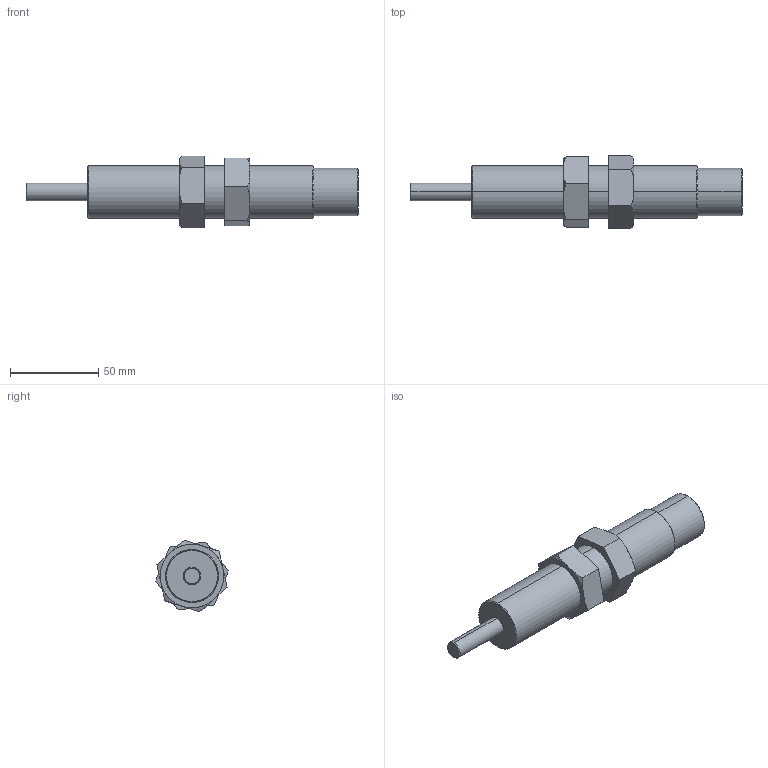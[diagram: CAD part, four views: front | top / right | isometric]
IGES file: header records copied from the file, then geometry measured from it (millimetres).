
Start section: SolidWorks IGES file using analytic representation for surfaces
Global section: file name: C:\Users\Sam Lin\Desktop\48\FSA-3035CC(CD).IGS; native system: SolidWorks 2013; preprocessor: SolidWorks 2013; author: Sam Lin; date: 160317.152858; units: metre
Bounding box: 188 x 41.18 x 40.58 mm (x, y, z)
Surface area: 24326.7 mm2 (no closed solid volume)
Topology: 0 solids, 0 shells, 50 faces, 1052 edges, 1052 vertices
Faces by surface type: bspline 32, revolution 18
